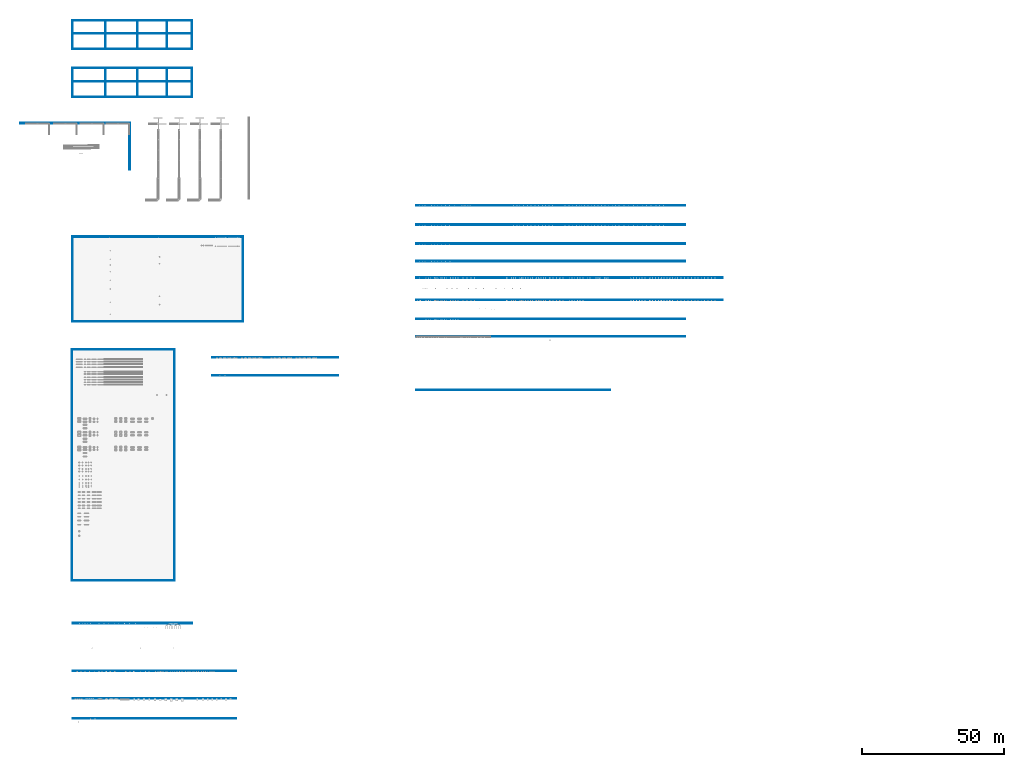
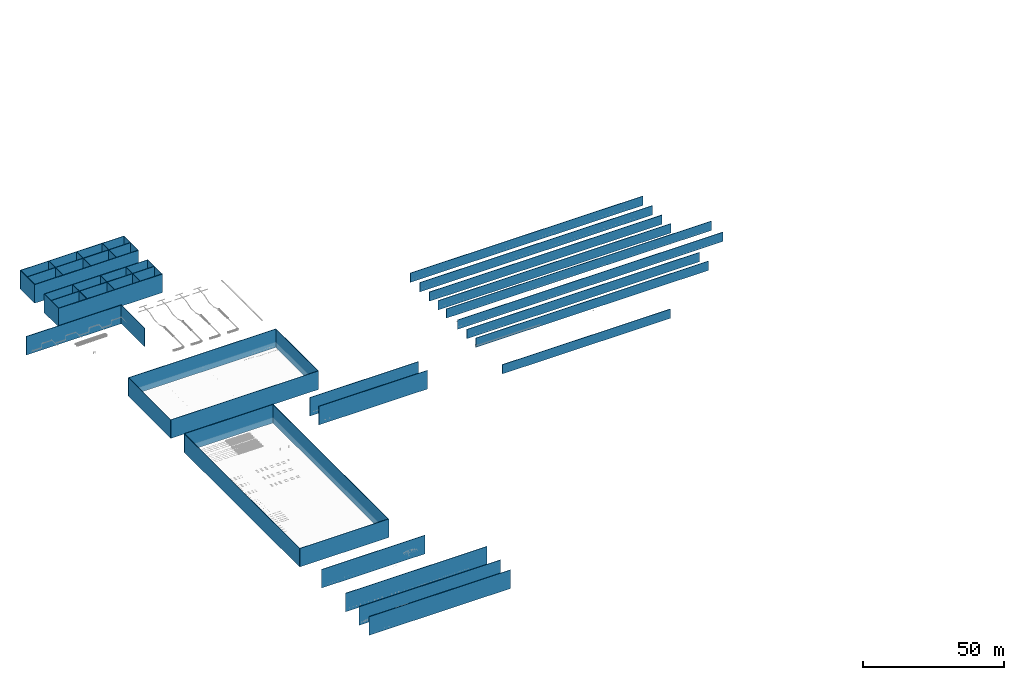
# One storey, part 1 of 197: 41 walls, 6 openings.
"""IFC2X3 building model written with IfcOpenShell, lengths in metres."""

from ifc_helpers import new_model, entity, si_unit, converted_unit, direction, frame, frame_2d, origin, place, context, subcontext, project, spatial, rectangle, extrude, material, layer, layer_set, layer_usage, type_object, element, save


model = new_model("IFC2X3")

# Units and contexts
model_context = context("Model", 3, precision=1e-05, world=origin(), true_north=direction((6.123031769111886e-17, 1.0)))
body_context = subcontext(model_context, "Body", "Model", "MODEL_VIEW")
ifc_project = project(units=[si_unit("LENGTHUNIT", "METRE"), converted_unit("PLANEANGLEUNIT", "DEGREE", entity("IfcPlaneAngleMeasure", 0.017453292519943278), si_unit("PLANEANGLEUNIT", "RADIAN"), dimensions=[0, 0, 0, 0, 0, 0, 0]), si_unit("AREAUNIT", "SQUARE_METRE")], contexts=[model_context])

# Site, building, storey
site_placement = place(None, origin())
site = spatial("IfcSite", under=ifc_project, at=site_placement, Name="Default", CompositionType="ELEMENT")
building_placement = place(site_placement, origin())
building = spatial("IfcBuilding", under=site, at=building_placement, CompositionType="ELEMENT")
storey_placement = place(building_placement, origin())
storey = spatial("IfcBuildingStorey", under=building, at=storey_placement, Name="Niveau 0", CompositionType="ELEMENT", Elevation=0.0)

# Walls
ifc_material = material(Name="Mur par défaut")
ifc_layer = layer(ifc_material, 0.2)
ifc_layer_set = layer_set([ifc_layer], Name="Mur de base:Générique - 200 mm")
ifc_layer_usage_1 = layer_usage(ifc_layer_set, "AXIS2", "NEGATIVE", 0.1)
wall_type = type_object("IfcWallType", Name="Mur de base:Générique - 200 mm", PredefinedType="STANDARD", material=ifc_layer_set)
wall_1_placement = place(storey_placement, frame((-350.61144850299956, 57.756967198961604, 0.0), z_axis=(0.0, 0.0, 1.0), x_axis=(-1.0, 0.0, 0.0)))
element("IfcWallStandardCase", 1, at=wall_1_placement, inside=storey, type_object=wall_type, material=ifc_layer_usage_1, Name="Mur de base:Générique - 200 mm", ObjectType="Mur de base:Générique - 200 mm", context=body_context, shape_type="SweptSolid", body=[
    extrude(rectangle(XDim=68.483, YDim=0.2000000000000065, at=frame_2d((34.2415, 0.0), x_axis=(-1.0, 0.0))), origin(), (0.0, 0.0, 1.0), 3.9999999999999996),
])
ifc_layer_usage_2 = layer_usage(ifc_layer_set, "AXIS2", "NEGATIVE", 0.1)
wall_2_placement = place(storey_placement, frame((-419.09444850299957, 116.11635778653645, 0.0)))
element("IfcWallStandardCase", 2, at=wall_2_placement, inside=storey, type_object=wall_type, material=ifc_layer_usage_2, Name="Mur de base:Générique - 200 mm", ObjectType="Mur de base:Générique - 200 mm", context=body_context, shape_type="SweptSolid", body=[
    extrude(rectangle(XDim=94.94600000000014, YDim=0.1999999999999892, at=frame_2d((47.47300000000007, 0.0), x_axis=(-1.0, 0.0))), origin(), (0.0, 0.0, 1.0), 3.9999999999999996),
])
ifc_layer_usage_3 = layer_usage(ifc_layer_set, "AXIS2", "NEGATIVE", 0.1)
wall_3_placement = place(storey_placement, frame((-419.09444850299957, 122.881355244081, 0.0)))
element("IfcWallStandardCase", 3, at=wall_3_placement, inside=storey, type_object=wall_type, material=ifc_layer_usage_3, Name="Mur de base:Générique - 200 mm", ObjectType="Mur de base:Générique - 200 mm", context=body_context, shape_type="SweptSolid", body=[
    extrude(rectangle(XDim=94.94600000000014, YDim=0.1999999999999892, at=frame_2d((47.47300000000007, 0.0), x_axis=(-1.0, 0.0))), origin(), (0.0, 0.0, 1.0), 3.9999999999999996),
])
ifc_layer_usage_4 = layer_usage(ifc_layer_set, "AXIS2", "NEGATIVE", 0.1)
wall_4_placement = place(storey_placement, frame((-419.09444850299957, 82.84735524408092, 0.0)))
element("IfcWallStandardCase", 4, at=wall_4_placement, inside=storey, type_object=wall_type, material=ifc_layer_usage_4, Name="Mur de base:Générique - 200 mm", ObjectType="Mur de base:Générique - 200 mm", context=body_context, shape_type="SweptSolid", body=[
    extrude(rectangle(XDim=94.94600000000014, YDim=0.1999999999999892, at=frame_2d((47.47300000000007, 0.0), x_axis=(-1.0, 0.0))), origin(), (0.0, 0.0, 1.0), 3.9999999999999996),
])
ifc_layer_usage_5 = layer_usage(ifc_layer_set, "AXIS2", "NEGATIVE", 0.1)
wall_5_placement = place(storey_placement, frame((-419.09444850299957, 103.24354659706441, 0.0)))
element("IfcWallStandardCase", 5, at=wall_5_placement, inside=storey, type_object=wall_type, material=ifc_layer_usage_5, Name="Mur de base:Générique - 200 mm", ObjectType="Mur de base:Générique - 200 mm", context=body_context, shape_type="SweptSolid", body=[
    extrude(rectangle(XDim=94.94600000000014, YDim=0.1999999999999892, at=frame_2d((47.47300000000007, 0.0), x_axis=(-1.0, 0.0))), origin(), (0.0, 0.0, 1.0), 3.9999999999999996),
])
ifc_layer_usage_6 = layer_usage(ifc_layer_set, "AXIS2", "NEGATIVE", 0.1)
wall_6_placement = place(storey_placement, frame((-419.09444850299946, 97.42254659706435, 0.0)))
element("IfcWallStandardCase", 6, at=wall_6_placement, inside=storey, type_object=wall_type, material=ifc_layer_usage_6, Name="Mur de base:Générique - 200 mm", ObjectType="Mur de base:Générique - 200 mm", context=body_context, shape_type="SweptSolid", body=[
    extrude(rectangle(XDim=108.24999999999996, YDim=0.1999999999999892, at=frame_2d((54.12499999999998, 0.0), x_axis=(-1.0, 0.0))), origin(), (0.0, 0.0, 1.0), 3.9999999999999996),
])
ifc_layer_usage_7 = layer_usage(ifc_layer_set, "AXIS2", "NEGATIVE", 0.1)
wall_7_placement = place(storey_placement, frame((-419.09444850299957, 89.49154659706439, 0.0)))
element("IfcWallStandardCase", 7, at=wall_7_placement, inside=storey, type_object=wall_type, material=ifc_layer_usage_7, Name="Mur de base:Générique - 200 mm", ObjectType="Mur de base:Générique - 200 mm", context=body_context, shape_type="SweptSolid", body=[
    extrude(rectangle(XDim=108.25000000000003, YDim=0.1999999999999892, at=frame_2d((54.125000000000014, 0.0), x_axis=(-1.0, 0.0))), origin(), (0.0, 0.0, 1.0), 3.9999999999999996),
])
ifc_layer_usage_8 = layer_usage(ifc_layer_set, "AXIS2", "NEGATIVE", 0.1)
wall_8_placement = place(storey_placement, frame((-419.09444850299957, 76.61196719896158, 0.0)))
element("IfcWallStandardCase", 8, at=wall_8_placement, inside=storey, type_object=wall_type, material=ifc_layer_usage_8, Name="Mur de base:Générique - 200 mm", ObjectType="Mur de base:Générique - 200 mm", context=body_context, shape_type="SweptSolid", body=[
    extrude(rectangle(XDim=94.94600000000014, YDim=0.2000000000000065, at=frame_2d((47.47300000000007, 0.0), x_axis=(-1.0, 0.0))), origin(), (0.0, 0.0, 1.0), 3.9999999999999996),
])
ifc_layer_usage_9 = layer_usage(ifc_layer_set, "AXIS2", "NEGATIVE", 0.1)
wall_9_placement = place(storey_placement, frame((-419.09444850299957, 109.41996719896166, 0.0)))
element("IfcWallStandardCase", 9, at=wall_9_placement, inside=storey, type_object=wall_type, material=ifc_layer_usage_9, Name="Mur de base:Générique - 200 mm", ObjectType="Mur de base:Générique - 200 mm", context=body_context, shape_type="SweptSolid", body=[
    extrude(rectangle(XDim=94.94600000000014, YDim=0.1999999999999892, at=frame_2d((47.47300000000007, 0.0), x_axis=(-1.0, 0.0))), origin(), (0.0, 0.0, 1.0), 3.9999999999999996),
])
ifc_layer_usage_10 = layer_usage(ifc_layer_set, "AXIS2", "NEGATIVE", 0.1)
wall_10_placement = place(storey_placement, frame((-540.4755951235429, 111.890355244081, 0.0)))
element("IfcWallStandardCase", 10, at=wall_10_placement, inside=storey, type_object=wall_type, material=ifc_layer_usage_10, Name="Mur de base:Générique - 200 mm", ObjectType="Mur de base:Générique - 200 mm", context=body_context, shape_type="SweptSolid", body=[
    extrude(rectangle(XDim=60.149884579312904, YDim=0.1999999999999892, at=frame_2d((30.074942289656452, 0.0), x_axis=(-1.0, 0.0))), origin(), (0.0, 0.0, 1.0), 8.0),
])
ifc_layer_usage_11 = layer_usage(ifc_layer_set, "AXIS2", "NEGATIVE", 0.1)
wall_11_placement = place(storey_placement, frame((-540.375595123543, 81.865355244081, 0.0), z_axis=(0.0, 0.0, 1.0), x_axis=(0.0, 1.0, 0.0)))
element("IfcWallStandardCase", 11, at=wall_11_placement, inside=storey, type_object=wall_type, material=ifc_layer_usage_11, Name="Mur de base:Générique - 200 mm", ObjectType="Mur de base:Générique - 200 mm", context=body_context, shape_type="SweptSolid", body=[
    extrude(rectangle(XDim=29.92499999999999, YDim=0.19999999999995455, at=frame_2d((14.962499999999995, 0.0), x_axis=(-1.0, 0.0))), origin(), (0.0, 0.0, 1.0), 8.0),
])
ifc_layer_usage_12 = layer_usage(ifc_layer_set, "AXIS2", "NEGATIVE", 0.1)
wall_12_placement = place(storey_placement, frame((-480.12571054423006, 81.965355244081, 0.0), z_axis=(0.0, 0.0, 1.0), x_axis=(-1.0, 0.0, 0.0)))
element("IfcWallStandardCase", 12, at=wall_12_placement, inside=storey, type_object=wall_type, material=ifc_layer_usage_12, Name="Mur de base:Générique - 200 mm", ObjectType="Mur de base:Générique - 200 mm", context=body_context, shape_type="SweptSolid", body=[
    extrude(rectangle(XDim=60.149884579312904, YDim=0.1999999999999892, at=frame_2d((30.074942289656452, 0.0), x_axis=(-1.0, 0.0))), origin(), (0.0, 0.0, 1.0), 8.0),
])
ifc_layer_usage_13 = layer_usage(ifc_layer_set, "AXIS2", "NEGATIVE", 0.1)
wall_13_placement = place(storey_placement, frame((-480.22571054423, 111.99035524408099, 0.0), z_axis=(0.0, 0.0, 1.0), x_axis=(0.0, -1.0, 0.0)))
element("IfcWallStandardCase", 13, at=wall_13_placement, inside=storey, type_object=wall_type, material=ifc_layer_usage_13, Name="Mur de base:Générique - 200 mm", ObjectType="Mur de base:Générique - 200 mm", context=body_context, shape_type="SweptSolid", body=[
    extrude(rectangle(XDim=29.92499999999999, YDim=0.19999999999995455, at=frame_2d((14.962499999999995, 0.0), x_axis=(-1.0, 0.0))), origin(), (0.0, 0.0, 1.0), 8.0),
])
ifc_layer_usage_14 = layer_usage(ifc_layer_set, "AXIS2", "NEGATIVE", 0.1)
wall_14_placement = place(storey_placement, frame((-540.4755951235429, 171.416355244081, 0.0)))
element("IfcWallStandardCase", 14, at=wall_14_placement, inside=storey, type_object=wall_type, material=ifc_layer_usage_14, Name="Mur de base:Générique - 200 mm", ObjectType="Mur de base:Générique - 200 mm", context=body_context, shape_type="SweptSolid", body=[
    extrude(rectangle(XDim=42.22299999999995, YDim=0.20000000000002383, at=frame_2d((21.111499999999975, 0.0), x_axis=(-1.0, 0.0))), origin(), (0.0, 0.0, 1.0), 8.0),
])
ifc_layer_usage_15 = layer_usage(ifc_layer_set, "AXIS2", "NEGATIVE", 0.1)
wall_15_placement = place(storey_placement, frame((-540.375595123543, 161.34635524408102, 0.0), z_axis=(0.0, 0.0, 1.0), x_axis=(0.0, 1.0, 0.0)))
element("IfcWallStandardCase", 15, at=wall_15_placement, inside=storey, type_object=wall_type, material=ifc_layer_usage_15, Name="Mur de base:Générique - 200 mm", ObjectType="Mur de base:Générique - 200 mm", context=body_context, shape_type="SweptSolid", body=[
    extrude(rectangle(XDim=9.969999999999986, YDim=0.19999999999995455, at=frame_2d((4.984999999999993, 0.0), x_axis=(-1.0, 0.0))), origin(), (0.0, 0.0, 1.0), 8.0),
])
ifc_layer_usage_16 = layer_usage(ifc_layer_set, "AXIS2", "NEGATIVE", 0.1)
wall_16_placement = place(storey_placement, frame((-498.152595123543, 171.516355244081, 0.0), z_axis=(0.0, 0.0, 1.0), x_axis=(0.0, -1.0, 0.0)))
element("IfcWallStandardCase", 16, at=wall_16_placement, inside=storey, type_object=wall_type, material=ifc_layer_usage_16, Name="Mur de base:Générique - 200 mm", ObjectType="Mur de base:Générique - 200 mm", context=body_context, shape_type="SweptSolid", body=[
    extrude(rectangle(XDim=10.169999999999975, YDim=0.19999999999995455, at=frame_2d((5.0849999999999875, 0.0), x_axis=(-1.0, 0.0))), origin(), (0.0, 0.0, 1.0), 8.0),
])
ifc_layer_usage_17 = layer_usage(ifc_layer_set, "AXIS2", "NEGATIVE", 0.1)
wall_17_placement = place(storey_placement, frame((-528.787595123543, 161.34635524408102, 0.0), z_axis=(0.0, 0.0, 1.0), x_axis=(0.0, 1.0, 0.0)))
element("IfcWallStandardCase", 17, at=wall_17_placement, inside=storey, type_object=wall_type, material=ifc_layer_usage_17, Name="Mur de base:Générique - 200 mm", ObjectType="Mur de base:Générique - 200 mm", context=body_context, shape_type="SweptSolid", body=[
    extrude(rectangle(XDim=9.969999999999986, YDim=0.19999999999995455, at=frame_2d((4.984999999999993, 0.0), x_axis=(-1.0, 0.0))), origin(), (0.0, 0.0, 1.0), 8.0),
])
ifc_layer_usage_18 = layer_usage(ifc_layer_set, "AXIS2", "NEGATIVE", 0.1)
wall_18_placement = place(storey_placement, frame((-517.482595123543, 161.34635524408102, 0.0), z_axis=(0.0, 0.0, 1.0), x_axis=(0.0, 1.0, 0.0)))
element("IfcWallStandardCase", 18, at=wall_18_placement, inside=storey, type_object=wall_type, material=ifc_layer_usage_18, Name="Mur de base:Générique - 200 mm", ObjectType="Mur de base:Générique - 200 mm", context=body_context, shape_type="SweptSolid", body=[
    extrude(rectangle(XDim=9.969999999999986, YDim=0.19999999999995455, at=frame_2d((4.984999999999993, 0.0), x_axis=(-1.0, 0.0))), origin(), (0.0, 0.0, 1.0), 8.0),
])
ifc_layer_usage_19 = layer_usage(ifc_layer_set, "AXIS2", "NEGATIVE", 0.1)
wall_19_placement = place(storey_placement, frame((-507.056595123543, 161.34635524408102, 0.0), z_axis=(0.0, 0.0, 1.0), x_axis=(0.0, 1.0, 0.0)))
element("IfcWallStandardCase", 19, at=wall_19_placement, inside=storey, type_object=wall_type, material=ifc_layer_usage_19, Name="Mur de base:Générique - 200 mm", ObjectType="Mur de base:Générique - 200 mm", context=body_context, shape_type="SweptSolid", body=[
    extrude(rectangle(XDim=9.969999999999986, YDim=0.19999999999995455, at=frame_2d((4.984999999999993, 0.0), x_axis=(-1.0, 0.0))), origin(), (0.0, 0.0, 1.0), 8.0),
])

# Wall, openings
ifc_layer_usage_20 = layer_usage(ifc_layer_set, "AXIS2", "NEGATIVE", 0.1)
wall_20_placement = place(storey_placement, frame((-540.275595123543, 166.70135524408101, 0.0)))
wall_20 = element("IfcWallStandardCase", 20, at=wall_20_placement, inside=storey, type_object=wall_type, material=ifc_layer_usage_20, Name="Mur de base:Générique - 200 mm", ObjectType="Mur de base:Générique - 200 mm", context=body_context, shape_type="SweptSolid", body=[
    extrude(rectangle(XDim=42.022999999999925, YDim=0.20000000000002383, at=frame_2d((21.011499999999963, 0.0), x_axis=(-1.0, 0.0))), origin(), (0.0, 0.0, 1.0), 8.0),
])
opening_1_placement = place(storey_placement, frame((-540.275595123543, 166.70135524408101, 0.0)))
element("IfcOpeningElement", 21, at=opening_1_placement, cuts=wall_20, Name="Mur de base:Générique - 200 mm:1", ObjectType="Opening", context=body_context, shape_type="SweptSolid", body=[
    extrude(rectangle(XDim=8.0, YDim=0.1999999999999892, at=frame_2d((0.0, -1.7319479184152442e-14), x_axis=(1.0, 0.0))), frame((33.11900000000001, 0.0, 4.0), z_axis=(1.0, 0.0, 0.0), x_axis=(0.0, 0.0, -1.0)), (0.0, 0.0, 1.0), 0.20000000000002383),
])
opening_2_placement = place(storey_placement, frame((-540.275595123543, 166.70135524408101, 0.0)))
element("IfcOpeningElement", 22, at=opening_2_placement, cuts=wall_20, Name="Mur de base:Générique - 200 mm:2", ObjectType="Opening", context=body_context, shape_type="SweptSolid", body=[
    extrude(rectangle(XDim=8.0, YDim=0.1999999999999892, at=frame_2d((0.0, -1.7319479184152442e-14), x_axis=(1.0, 0.0))), frame((22.692999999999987, 0.0, 4.0), z_axis=(1.0, 0.0, 0.0), x_axis=(0.0, 0.0, -1.0)), (0.0, 0.0, 1.0), 0.20000000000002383),
])
opening_3_placement = place(storey_placement, frame((-540.275595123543, 166.70135524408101, 0.0)))
element("IfcOpeningElement", 23, at=opening_3_placement, cuts=wall_20, Name="Mur de base:Générique - 200 mm:3", ObjectType="Opening", context=body_context, shape_type="SweptSolid", body=[
    extrude(rectangle(XDim=8.0, YDim=0.1999999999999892, at=frame_2d((0.0, -1.7319479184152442e-14), x_axis=(1.0, 0.0))), frame((11.387999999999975, 0.0, 4.0), z_axis=(1.0, 0.0, 0.0), x_axis=(0.0, 0.0, -1.0)), (0.0, 0.0, 1.0), 0.20000000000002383),
])

# Walls
ifc_layer_usage_21 = layer_usage(ifc_layer_set, "AXIS2", "NEGATIVE", 0.1)
wall_21_placement = place(storey_placement, frame((-540.4755951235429, 161.24635524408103, 0.0)))
element("IfcWallStandardCase", 24, at=wall_21_placement, inside=storey, type_object=wall_type, material=ifc_layer_usage_21, Name="Mur de base:Générique - 200 mm", ObjectType="Mur de base:Générique - 200 mm", context=body_context, shape_type="SweptSolid", body=[
    extrude(rectangle(XDim=42.42299999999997, YDim=0.20000000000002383, at=frame_2d((21.211499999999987, 0.0), x_axis=(-1.0, 0.0))), origin(), (0.0, 0.0, 1.0), 8.0),
])
ifc_layer_usage_22 = layer_usage(ifc_layer_set, "AXIS2", "NEGATIVE", 0.1)
wall_22_placement = place(storey_placement, frame((-540.4755951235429, 188.29635524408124, 0.0)))
element("IfcWallStandardCase", 25, at=wall_22_placement, inside=storey, type_object=wall_type, material=ifc_layer_usage_22, Name="Mur de base:Générique - 200 mm", ObjectType="Mur de base:Générique - 200 mm", context=body_context, shape_type="SweptSolid", body=[
    extrude(rectangle(XDim=42.22299999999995, YDim=0.20000000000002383, at=frame_2d((21.111499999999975, 0.0), x_axis=(-1.0, 0.0))), origin(), (0.0, 0.0, 1.0), 8.0),
])
ifc_layer_usage_23 = layer_usage(ifc_layer_set, "AXIS2", "NEGATIVE", 0.1)
wall_23_placement = place(storey_placement, frame((-540.375595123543, 178.22635524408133, 0.0), z_axis=(0.0, 0.0, 1.0), x_axis=(0.0, 1.0, 0.0)))
element("IfcWallStandardCase", 26, at=wall_23_placement, inside=storey, type_object=wall_type, material=ifc_layer_usage_23, Name="Mur de base:Générique - 200 mm", ObjectType="Mur de base:Générique - 200 mm", context=body_context, shape_type="SweptSolid", body=[
    extrude(rectangle(XDim=9.969999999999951, YDim=0.19999999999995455, at=frame_2d((4.9849999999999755, 0.0), x_axis=(-1.0, 0.0))), origin(), (0.0, 0.0, 1.0), 8.0),
])
ifc_layer_usage_24 = layer_usage(ifc_layer_set, "AXIS2", "NEGATIVE", 0.1)
wall_24_placement = place(storey_placement, frame((-498.152595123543, 188.39635524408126, 0.0), z_axis=(0.0, 0.0, 1.0), x_axis=(0.0, -1.0, 0.0)))
element("IfcWallStandardCase", 27, at=wall_24_placement, inside=storey, type_object=wall_type, material=ifc_layer_usage_24, Name="Mur de base:Générique - 200 mm", ObjectType="Mur de base:Générique - 200 mm", context=body_context, shape_type="SweptSolid", body=[
    extrude(rectangle(XDim=10.169999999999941, YDim=0.19999999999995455, at=frame_2d((5.084999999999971, 0.0), x_axis=(-1.0, 0.0))), origin(), (0.0, 0.0, 1.0), 8.0),
])
ifc_layer_usage_25 = layer_usage(ifc_layer_set, "AXIS2", "NEGATIVE", 0.1)
wall_25_placement = place(storey_placement, frame((-528.787595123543, 178.22635524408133, 0.0), z_axis=(0.0, 0.0, 1.0), x_axis=(0.0, 1.0, 0.0)))
element("IfcWallStandardCase", 28, at=wall_25_placement, inside=storey, type_object=wall_type, material=ifc_layer_usage_25, Name="Mur de base:Générique - 200 mm", ObjectType="Mur de base:Générique - 200 mm", context=body_context, shape_type="SweptSolid", body=[
    extrude(rectangle(XDim=9.969999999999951, YDim=0.19999999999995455, at=frame_2d((4.9849999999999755, 0.0), x_axis=(-1.0, 0.0))), origin(), (0.0, 0.0, 1.0), 8.0),
])
ifc_layer_usage_26 = layer_usage(ifc_layer_set, "AXIS2", "NEGATIVE", 0.1)
wall_26_placement = place(storey_placement, frame((-517.482595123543, 178.22635524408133, 0.0), z_axis=(0.0, 0.0, 1.0), x_axis=(0.0, 1.0, 0.0)))
element("IfcWallStandardCase", 29, at=wall_26_placement, inside=storey, type_object=wall_type, material=ifc_layer_usage_26, Name="Mur de base:Générique - 200 mm", ObjectType="Mur de base:Générique - 200 mm", context=body_context, shape_type="SweptSolid", body=[
    extrude(rectangle(XDim=9.969999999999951, YDim=0.19999999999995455, at=frame_2d((4.9849999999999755, 0.0), x_axis=(-1.0, 0.0))), origin(), (0.0, 0.0, 1.0), 8.0),
])
ifc_layer_usage_27 = layer_usage(ifc_layer_set, "AXIS2", "NEGATIVE", 0.1)
wall_27_placement = place(storey_placement, frame((-507.056595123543, 178.22635524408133, 0.0), z_axis=(0.0, 0.0, 1.0), x_axis=(0.0, 1.0, 0.0)))
element("IfcWallStandardCase", 30, at=wall_27_placement, inside=storey, type_object=wall_type, material=ifc_layer_usage_27, Name="Mur de base:Générique - 200 mm", ObjectType="Mur de base:Générique - 200 mm", context=body_context, shape_type="SweptSolid", body=[
    extrude(rectangle(XDim=9.969999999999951, YDim=0.19999999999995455, at=frame_2d((4.9849999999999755, 0.0), x_axis=(-1.0, 0.0))), origin(), (0.0, 0.0, 1.0), 8.0),
])

# Wall, openings
ifc_layer_usage_28 = layer_usage(ifc_layer_set, "AXIS2", "NEGATIVE", 0.1)
wall_28_placement = place(storey_placement, frame((-540.275595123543, 183.5813552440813, 0.0)))
wall_28 = element("IfcWallStandardCase", 31, at=wall_28_placement, inside=storey, type_object=wall_type, material=ifc_layer_usage_28, Name="Mur de base:Générique - 200 mm", ObjectType="Mur de base:Générique - 200 mm", context=body_context, shape_type="SweptSolid", body=[
    extrude(rectangle(XDim=42.022999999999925, YDim=0.20000000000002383, at=frame_2d((21.011499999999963, 0.0), x_axis=(-1.0, 0.0))), origin(), (0.0, 0.0, 1.0), 8.0),
])
opening_4_placement = place(storey_placement, frame((-540.275595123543, 183.5813552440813, 0.0)))
element("IfcOpeningElement", 32, at=opening_4_placement, cuts=wall_28, Name="Mur de base:Générique - 200 mm:1", ObjectType="Opening", context=body_context, shape_type="SweptSolid", body=[
    extrude(rectangle(XDim=8.0, YDim=0.1999999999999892, at=frame_2d((0.0, 1.7319479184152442e-14), x_axis=(1.0, 0.0))), frame((33.11900000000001, 0.0, 4.0), z_axis=(1.0, 0.0, 0.0), x_axis=(0.0, 0.0, -1.0)), (0.0, 0.0, 1.0), 0.20000000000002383),
])
opening_5_placement = place(storey_placement, frame((-540.275595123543, 183.5813552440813, 0.0)))
element("IfcOpeningElement", 33, at=opening_5_placement, cuts=wall_28, Name="Mur de base:Générique - 200 mm:2", ObjectType="Opening", context=body_context, shape_type="SweptSolid", body=[
    extrude(rectangle(XDim=8.0, YDim=0.1999999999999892, at=frame_2d((0.0, 1.7319479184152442e-14), x_axis=(1.0, 0.0))), frame((22.692999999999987, 0.0, 4.0), z_axis=(1.0, 0.0, 0.0), x_axis=(0.0, 0.0, -1.0)), (0.0, 0.0, 1.0), 0.20000000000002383),
])
opening_6_placement = place(storey_placement, frame((-540.275595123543, 183.5813552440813, 0.0)))
element("IfcOpeningElement", 34, at=opening_6_placement, cuts=wall_28, Name="Mur de base:Générique - 200 mm:3", ObjectType="Opening", context=body_context, shape_type="SweptSolid", body=[
    extrude(rectangle(XDim=8.0, YDim=0.1999999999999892, at=frame_2d((0.0, 1.7319479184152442e-14), x_axis=(1.0, 0.0))), frame((11.387999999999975, 0.0, 4.0), z_axis=(1.0, 0.0, 0.0), x_axis=(0.0, 0.0, -1.0)), (0.0, 0.0, 1.0), 0.20000000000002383),
])

# Walls
ifc_layer_usage_29 = layer_usage(ifc_layer_set, "AXIS2", "NEGATIVE", 0.1)
wall_29_placement = place(storey_placement, frame((-540.4755951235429, 178.1263552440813, 0.0)))
element("IfcWallStandardCase", 35, at=wall_29_placement, inside=storey, type_object=wall_type, material=ifc_layer_usage_29, Name="Mur de base:Générique - 200 mm", ObjectType="Mur de base:Générique - 200 mm", context=body_context, shape_type="SweptSolid", body=[
    extrude(rectangle(XDim=42.42299999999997, YDim=0.20000000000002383, at=frame_2d((21.211499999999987, 0.0), x_axis=(-1.0, 0.0))), origin(), (0.0, 0.0, 1.0), 8.0),
])
ifc_layer_usage_30 = layer_usage(ifc_layer_set, "AXIS2", "NEGATIVE", 0.1)
wall_30_placement = place(storey_placement, frame((-558.9365951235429, 151.950355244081, 0.0)))
element("IfcWallStandardCase", 36, at=wall_30_placement, inside=storey, type_object=wall_type, material=ifc_layer_usage_30, Name="Mur de base:Générique - 200 mm", ObjectType="Mur de base:Générique - 200 mm", context=body_context, shape_type="SweptSolid", body=[
    extrude(rectangle(XDim=38.64699999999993, YDim=0.1999999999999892, at=frame_2d((19.323499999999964, 0.0), x_axis=(-1.0, 0.0))), origin(), (0.0, 0.0, 1.0), 8.0),
])
ifc_layer_usage_31 = layer_usage(ifc_layer_set, "AXIS2", "NEGATIVE", 0.1)
wall_31_placement = place(storey_placement, frame((-520.189595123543, 152.050355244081, 0.0), z_axis=(0.0, 0.0, 1.0), x_axis=(0.0, -1.0, 0.0)))
element("IfcWallStandardCase", 37, at=wall_31_placement, inside=storey, type_object=wall_type, material=ifc_layer_usage_31, Name="Mur de base:Générique - 200 mm", ObjectType="Mur de base:Générique - 200 mm", context=body_context, shape_type="SweptSolid", body=[
    extrude(rectangle(XDim=16.549999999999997, YDim=0.19999999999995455, at=frame_2d((8.274999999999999, 0.0), x_axis=(-1.0, 0.0))), origin(), (0.0, 0.0, 1.0), 8.0),
])
ifc_layer_usage_32 = layer_usage(ifc_layer_set, "AXIS2", "NEGATIVE", 0.1)
wall_32_placement = place(storey_placement, frame((-540.6337105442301, 72.12735524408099, 0.0)))
element("IfcWallStandardCase", 38, at=wall_32_placement, inside=storey, type_object=wall_type, material=ifc_layer_usage_32, Name="Mur de base:Générique - 200 mm", ObjectType="Mur de base:Générique - 200 mm", context=body_context, shape_type="SweptSolid", body=[
    extrude(rectangle(XDim=36.16099999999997, YDim=0.2000000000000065, at=frame_2d((18.080499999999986, 0.0), x_axis=(-1.0, 0.0))), origin(), (0.0, 0.0, 1.0), 8.0),
])
ifc_layer_usage_33 = layer_usage(ifc_layer_set, "AXIS2", "NEGATIVE", 0.1)
wall_33_placement = place(storey_placement, frame((-540.5337105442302, -9.513644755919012, 0.0), z_axis=(0.0, 0.0, 1.0), x_axis=(0.0, 1.0, 0.0)))
element("IfcWallStandardCase", 39, at=wall_33_placement, inside=storey, type_object=wall_type, material=ifc_layer_usage_33, Name="Mur de base:Générique - 200 mm", ObjectType="Mur de base:Générique - 200 mm", context=body_context, shape_type="SweptSolid", body=[
    extrude(rectangle(XDim=81.54100000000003, YDim=0.19999999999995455, at=frame_2d((40.77050000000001, 0.0), x_axis=(-1.0, 0.0))), origin(), (0.0, 0.0, 1.0), 8.0),
])
ifc_layer_usage_34 = layer_usage(ifc_layer_set, "AXIS2", "NEGATIVE", 0.1)
wall_34_placement = place(storey_placement, frame((-504.27271054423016, -9.413644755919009, 0.0), z_axis=(0.0, 0.0, 1.0), x_axis=(-1.0, 0.0, 0.0)))
element("IfcWallStandardCase", 40, at=wall_34_placement, inside=storey, type_object=wall_type, material=ifc_layer_usage_34, Name="Mur de base:Générique - 200 mm", ObjectType="Mur de base:Générique - 200 mm", context=body_context, shape_type="SweptSolid", body=[
    extrude(rectangle(XDim=36.16099999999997, YDim=0.2, at=frame_2d((18.080499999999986, 0.0), x_axis=(-1.0, 0.0))), origin(), (0.0, 0.0, 1.0), 8.0),
])
ifc_layer_usage_35 = layer_usage(ifc_layer_set, "AXIS2", "NEGATIVE", 0.1)
wall_35_placement = place(storey_placement, frame((-504.37271054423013, 72.227355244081, 0.0), z_axis=(0.0, 0.0, 1.0), x_axis=(0.0, -1.0, 0.0)))
element("IfcWallStandardCase", 41, at=wall_35_placement, inside=storey, type_object=wall_type, material=ifc_layer_usage_35, Name="Mur de base:Générique - 200 mm", ObjectType="Mur de base:Générique - 200 mm", context=body_context, shape_type="SweptSolid", body=[
    extrude(rectangle(XDim=81.541, YDim=0.19999999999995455, at=frame_2d((40.7705, 0.0), x_axis=(-1.0, 0.0))), origin(), (0.0, 0.0, 1.0), 8.0),
])
ifc_layer_usage_36 = layer_usage(ifc_layer_set, "AXIS2", "NEGATIVE", 0.1)
wall_36_placement = place(storey_placement, frame((-491.02671054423, 69.262355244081, 0.0)))
element("IfcWallStandardCase", 42, at=wall_36_placement, inside=storey, type_object=wall_type, material=ifc_layer_usage_36, Name="Mur de base:Générique - 200 mm", ObjectType="Mur de base:Générique - 200 mm", context=body_context, shape_type="SweptSolid", body=[
    extrude(rectangle(XDim=44.39800000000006, YDim=0.2000000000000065, at=frame_2d((22.19900000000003, 0.0), x_axis=(-1.0, 0.0))), origin(), (0.0, 0.0, 1.0), 8.0),
])
ifc_layer_usage_37 = layer_usage(ifc_layer_set, "AXIS2", "NEGATIVE", 0.1)
wall_37_placement = place(storey_placement, frame((-491.02671054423, 62.970355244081, 0.0)))
element("IfcWallStandardCase", 43, at=wall_37_placement, inside=storey, type_object=wall_type, material=ifc_layer_usage_37, Name="Mur de base:Générique - 200 mm", ObjectType="Mur de base:Générique - 200 mm", context=body_context, shape_type="SweptSolid", body=[
    extrude(rectangle(XDim=44.39800000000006, YDim=0.2000000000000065, at=frame_2d((22.19900000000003, 0.0), x_axis=(-1.0, 0.0))), origin(), (0.0, 0.0, 1.0), 8.0),
])
ifc_layer_usage_38 = layer_usage(ifc_layer_set, "AXIS2", "NEGATIVE", 0.1)
wall_38_placement = place(storey_placement, frame((-540.375595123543, -24.536644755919, 0.0)))
element("IfcWallStandardCase", 44, at=wall_38_placement, inside=storey, type_object=wall_type, material=ifc_layer_usage_38, Name="Mur de base:Générique - 200 mm", ObjectType="Mur de base:Générique - 200 mm", context=body_context, shape_type="SweptSolid", body=[
    extrude(rectangle(XDim=42.22300000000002, YDim=0.19999999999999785, at=frame_2d((21.11150000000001, 0.0), x_axis=(-1.0, 0.0))), origin(), (0.0, 0.0, 1.0), 8.0),
])
ifc_layer_usage_39 = layer_usage(ifc_layer_set, "AXIS2", "NEGATIVE", 0.1)
wall_39_placement = place(storey_placement, frame((-482.645595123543, -41.458644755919, 0.0), z_axis=(0.0, 0.0, 1.0), x_axis=(-1.0, 0.0, 0.0)))
element("IfcWallStandardCase", 45, at=wall_39_placement, inside=storey, type_object=wall_type, material=ifc_layer_usage_39, Name="Mur de base:Générique - 200 mm", ObjectType="Mur de base:Générique - 200 mm", context=body_context, shape_type="SweptSolid", body=[
    extrude(rectangle(XDim=57.73000000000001, YDim=0.2000000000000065, at=frame_2d((28.865000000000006, 0.0), x_axis=(-1.0, 0.0))), origin(), (0.0, 0.0, 1.0), 8.0),
])
ifc_layer_usage_40 = layer_usage(ifc_layer_set, "AXIS2", "NEGATIVE", 0.1)
wall_40_placement = place(storey_placement, frame((-482.645595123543, -51.052644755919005, 0.0), z_axis=(0.0, 0.0, 1.0), x_axis=(-1.0, 0.0, 0.0)))
element("IfcWallStandardCase", 46, at=wall_40_placement, inside=storey, type_object=wall_type, material=ifc_layer_usage_40, Name="Mur de base:Générique - 200 mm", ObjectType="Mur de base:Générique - 200 mm", context=body_context, shape_type="SweptSolid", body=[
    extrude(rectangle(XDim=57.73000000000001, YDim=0.2000000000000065, at=frame_2d((28.865000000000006, 0.0), x_axis=(-1.0, 0.0))), origin(), (0.0, 0.0, 1.0), 8.0),
])
ifc_layer_usage_41 = layer_usage(ifc_layer_set, "AXIS2", "NEGATIVE", 0.1)
wall_41_placement = place(storey_placement, frame((-482.645595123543, -58.151644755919, 0.0), z_axis=(0.0, 0.0, 1.0), x_axis=(-1.0, 0.0, 0.0)))
element("IfcWallStandardCase", 47, at=wall_41_placement, inside=storey, type_object=wall_type, material=ifc_layer_usage_41, Name="Mur de base:Générique - 200 mm", ObjectType="Mur de base:Générique - 200 mm", context=body_context, shape_type="SweptSolid", body=[
    extrude(rectangle(XDim=57.73000000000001, YDim=0.2000000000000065, at=frame_2d((28.865000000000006, 0.0), x_axis=(-1.0, 0.0))), origin(), (0.0, 0.0, 1.0), 8.0),
])

save(model, "model.ifc")
